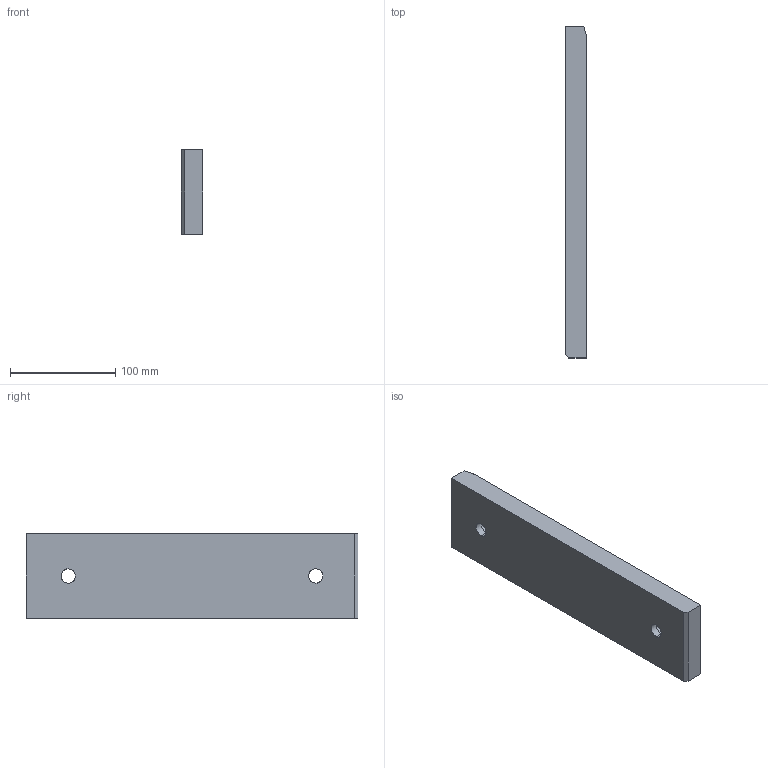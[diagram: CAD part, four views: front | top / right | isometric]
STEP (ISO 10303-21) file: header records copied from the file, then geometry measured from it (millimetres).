
FILE_DESCRIPTION(('CATIA V5 STEP Exchange'),'2;1');
FILE_NAME('C:\Users\borellobunino\Desktop\3D X SITO CF\A915\GSB_OILLESS_G22501080315\STEP-2.03\A915-80X315.stp','2019-07-14T13:04:58+00:00',('none'),('none'),'CATIA Version 5 Release 20 GA (IN-10)','CATIA V5 STEP AP203','none');
FILE_SCHEMA(('CONFIG_CONTROL_DESIGN'));
Length unit declared in the file: millimetre
Products named in the file (1): A915-80X315
Bounding box: 20 x 315 x 80 mm (x, y, z)
Volume: 492135.6 mm3; surface area: 67337.9 mm2
Topology: 1 solids, 1 shells, 23 faces, 73 edges, 54 vertices
Faces by surface type: plane 10, cylinder 9, torus 4
Entity records: 1057 total; most frequent: CARTESIAN_POINT 375, ORIENTED_EDGE 146, DIRECTION 103, EDGE_CURVE 73, AXIS2_PLACEMENT_3D 54, VERTEX_POINT 54, CIRCLE 30, EDGE_LOOP 29
